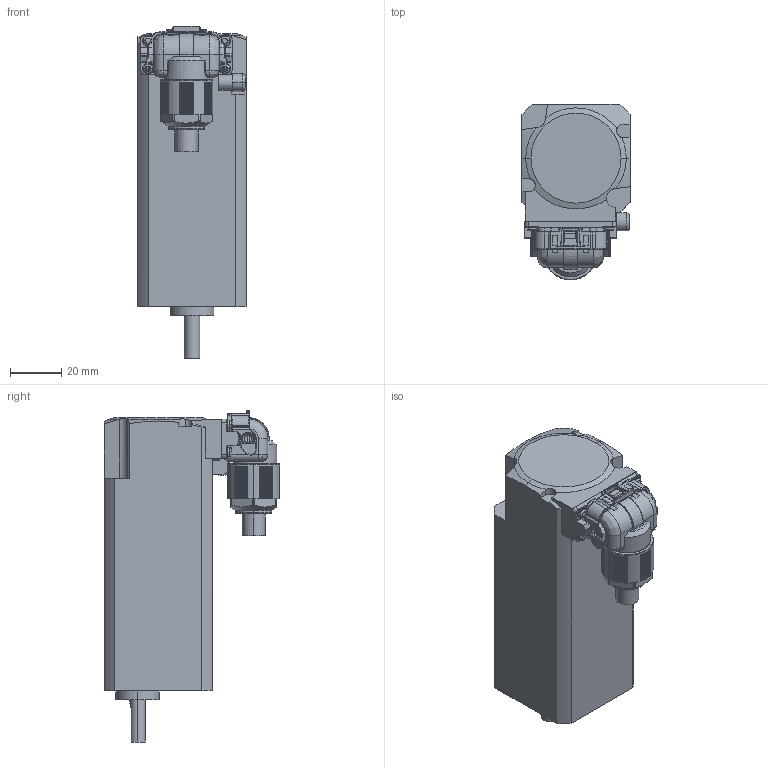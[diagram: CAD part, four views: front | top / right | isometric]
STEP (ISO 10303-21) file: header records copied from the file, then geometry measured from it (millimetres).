
FILE_DESCRIPTION (( 'STEP AP203' ), '1' );
FILE_NAME ('B1561_F.step', '2025-07-07T03:16:09', ( '' ), ( '' ), 'SwSTEP 2.0', 'SolidWorks 2023', '' );
FILE_SCHEMA (( 'CONFIG_CONTROL_DESIGN' ));
Length unit declared in the file: millimetre
Products named in the file (1): B1561_F
Bounding box: 42 x 68.3 x 129.05 mm (x, y, z)
Volume: 197457.4 mm3; surface area: 26494.6 mm2
Topology: 2 solids, 2 shells, 1048 faces, 2751 edges, 1694 vertices
Faces by surface type: plane 442, cylinder 387, bspline 148, cone 44, torus 27
Entity records: 35895 total; most frequent: CARTESIAN_POINT 11671, ORIENTED_EDGE 5442, DIRECTION 4593, EDGE_CURVE 2721, VERTEX_POINT 1694, AXIS2_PLACEMENT_3D 1583, LINE 1427, VECTOR 1427
